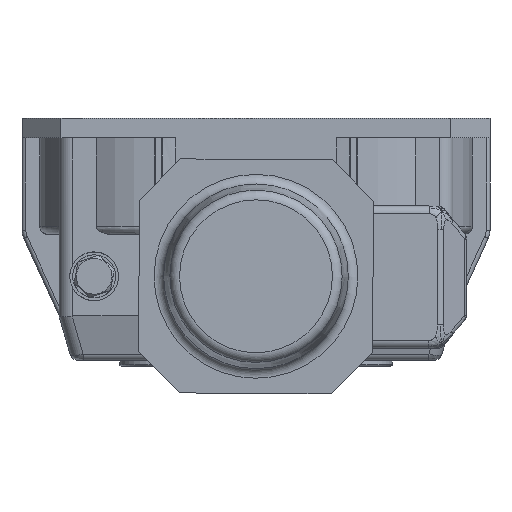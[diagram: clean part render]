
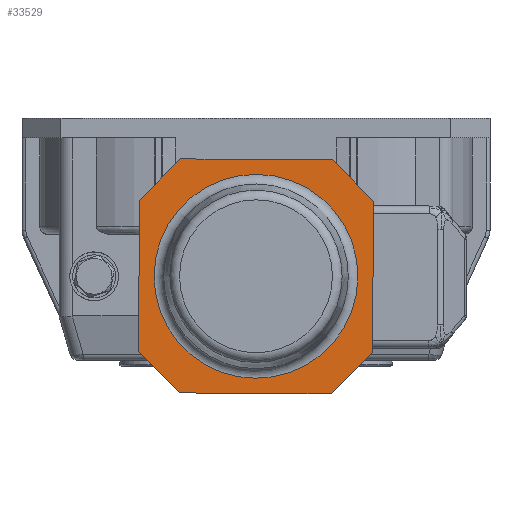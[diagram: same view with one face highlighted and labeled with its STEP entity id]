
A CAD part, front view. The second image highlights one B-rep face of the part: STEP entity #33529.
In plain terms, the highlighted planar face has unit normal (0, -1, 0) as drawn and (1, 0, 0) by its records, which use the part's own axes.
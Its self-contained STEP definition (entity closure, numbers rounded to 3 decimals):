
#33423=CARTESIAN_POINT('',(176.0,0.,52.284));
#33424=VERTEX_POINT('',#33423);
#33425=CARTESIAN_POINT('',(176.0,0.0,0.0));
#33426=DIRECTION('',(1.0,0.0,0.0));
#33427=DIRECTION('',(0.0,0.0,-1.0));
#33428=AXIS2_PLACEMENT_3D('',#33425,#33426,#33427);
#33429=CIRCLE('',#33428,52.284);
#33430=EDGE_CURVE('',#33424,#33424,#33429,.T.);
#33455=CARTESIAN_POINT('',(176.0,26.4,0.0));
#33456=DIRECTION('',(1.0,0.0,0.0));
#33457=DIRECTION('',(0.0,0.0,-1.0));
#33458=AXIS2_PLACEMENT_3D('',#33455,#33456,#33457);
#33459=PLANE('',#33458);
#33460=CARTESIAN_POINT('',(176.0,-60.0,38.787));
#33461=VERTEX_POINT('',#33460);
#33462=CARTESIAN_POINT('',(176.0,-38.787,60.0));
#33463=VERTEX_POINT('',#33462);
#33464=CARTESIAN_POINT('',(176.0,-60.0,38.787));
#33465=DIRECTION('',(0.0,0.707,0.707));
#33466=VECTOR('',#33465,30.);
#33467=LINE('',#33464,#33466);
#33468=EDGE_CURVE('',#33461,#33463,#33467,.T.);
#33469=ORIENTED_EDGE('',*,*,#33468,.F.);
#33470=CARTESIAN_POINT('',(176.0,-60.0,-38.787));
#33471=VERTEX_POINT('',#33470);
#33472=CARTESIAN_POINT('',(176.0,-60.0,-38.787));
#33473=DIRECTION('',(0.0,0.0,1.0));
#33474=VECTOR('',#33473,77.574);
#33475=LINE('',#33472,#33474);
#33476=EDGE_CURVE('',#33471,#33461,#33475,.T.);
#33477=ORIENTED_EDGE('',*,*,#33476,.F.);
#33478=CARTESIAN_POINT('',(176.0,-38.787,-60.0));
#33479=VERTEX_POINT('',#33478);
#33480=CARTESIAN_POINT('',(176.0,-38.787,-60.0));
#33481=DIRECTION('',(0.0,-0.707,0.707));
#33482=VECTOR('',#33481,30.);
#33483=LINE('',#33480,#33482);
#33484=EDGE_CURVE('',#33479,#33471,#33483,.T.);
#33485=ORIENTED_EDGE('',*,*,#33484,.F.);
#33486=CARTESIAN_POINT('',(176.0,38.787,-60.0));
#33487=VERTEX_POINT('',#33486);
#33488=CARTESIAN_POINT('',(176.0,38.787,-60.0));
#33489=DIRECTION('',(0.0,-1.0,0.0));
#33490=VECTOR('',#33489,77.574);
#33491=LINE('',#33488,#33490);
#33492=EDGE_CURVE('',#33487,#33479,#33491,.T.);
#33493=ORIENTED_EDGE('',*,*,#33492,.F.);
#33494=CARTESIAN_POINT('',(176.0,60.0,-38.787));
#33495=VERTEX_POINT('',#33494);
#33496=CARTESIAN_POINT('',(176.0,60.0,-38.787));
#33497=DIRECTION('',(0.0,-0.707,-0.707));
#33498=VECTOR('',#33497,30.);
#33499=LINE('',#33496,#33498);
#33500=EDGE_CURVE('',#33495,#33487,#33499,.T.);
#33501=ORIENTED_EDGE('',*,*,#33500,.F.);
#33502=CARTESIAN_POINT('',(176.0,60.0,38.787));
#33503=VERTEX_POINT('',#33502);
#33504=CARTESIAN_POINT('',(176.0,60.0,38.787));
#33505=DIRECTION('',(0.0,0.0,-1.0));
#33506=VECTOR('',#33505,77.574);
#33507=LINE('',#33504,#33506);
#33508=EDGE_CURVE('',#33503,#33495,#33507,.T.);
#33509=ORIENTED_EDGE('',*,*,#33508,.F.);
#33510=CARTESIAN_POINT('',(176.0,38.787,60.0));
#33511=VERTEX_POINT('',#33510);
#33512=CARTESIAN_POINT('',(176.0,38.787,60.0));
#33513=DIRECTION('',(0.0,0.707,-0.707));
#33514=VECTOR('',#33513,30.);
#33515=LINE('',#33512,#33514);
#33516=EDGE_CURVE('',#33511,#33503,#33515,.T.);
#33517=ORIENTED_EDGE('',*,*,#33516,.F.);
#33518=CARTESIAN_POINT('',(176.0,-38.787,60.0));
#33519=DIRECTION('',(0.0,1.0,0.0));
#33520=VECTOR('',#33519,77.574);
#33521=LINE('',#33518,#33520);
#33522=EDGE_CURVE('',#33463,#33511,#33521,.T.);
#33523=ORIENTED_EDGE('',*,*,#33522,.F.);
#33524=EDGE_LOOP('',(#33469,#33477,#33485,#33493,#33501,#33509,#33517,#33523));
#33525=FACE_OUTER_BOUND('',#33524,.T.);
#33526=ORIENTED_EDGE('',*,*,#33430,.F.);
#33527=EDGE_LOOP('',(#33526));
#33528=FACE_BOUND('',#33527,.T.);
#33529=ADVANCED_FACE('',(#33525,#33528),#33459,.T.);
